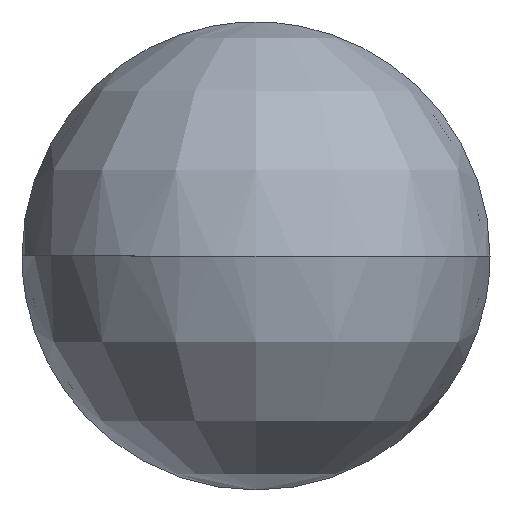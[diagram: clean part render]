
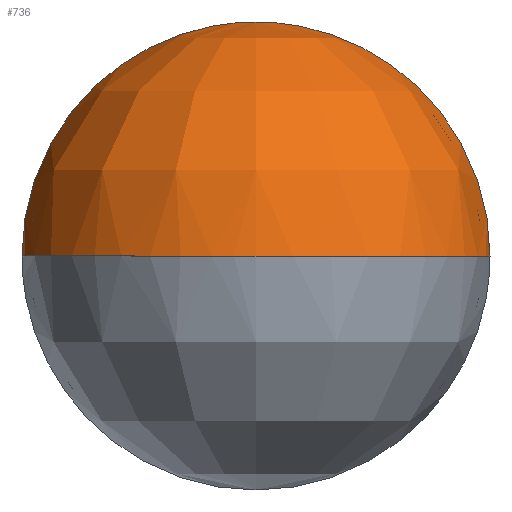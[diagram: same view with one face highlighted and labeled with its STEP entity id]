
A CAD part, front view. The second image highlights one B-rep face of the part: STEP entity #736.
In plain terms, the highlighted free-form (B-spline) face has degree [2, 2] with [5, 5] control points.
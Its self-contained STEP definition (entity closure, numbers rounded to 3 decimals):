
#736=ADVANCED_FACE('',(#2440),#27548,.T.);
#2440=FACE_OUTER_BOUND('',#4172,.T.);
#4172=EDGE_LOOP('',(#6740,#6741,#6742,#6743));
#6740=ORIENTED_EDGE('',*,*,#15159,.T.);
#6741=ORIENTED_EDGE('',*,*,#15139,.T.);
#6742=ORIENTED_EDGE('',*,*,#15141,.T.);
#6743=ORIENTED_EDGE('',*,*,#15158,.F.);
#15139=EDGE_CURVE('',#24006,#24007,#19464,.T.);
#15141=EDGE_CURVE('',#24007,#24003,#19466,.T.);
#15158=EDGE_CURVE('',#24019,#24003,#19481,.T.);
#15159=EDGE_CURVE('',#24019,#24006,#19482,.T.);
#19464=(
BOUNDED_CURVE()
B_SPLINE_CURVE(2,(#37439,#37440,#37441),.UNSPECIFIED.,.F.,.F.)
B_SPLINE_CURVE_WITH_KNOTS((3,3),(0.,141.372),.UNSPECIFIED.)
CURVE()
GEOMETRIC_REPRESENTATION_ITEM()
RATIONAL_B_SPLINE_CURVE((1.,0.707,1.))
REPRESENTATION_ITEM('')
);
#19466=(
BOUNDED_CURVE()
B_SPLINE_CURVE(2,(#37445,#37446,#37447),.UNSPECIFIED.,.F.,.F.)
B_SPLINE_CURVE_WITH_KNOTS((3,3),(141.372,282.743),
 .UNSPECIFIED.)
CURVE()
GEOMETRIC_REPRESENTATION_ITEM()
RATIONAL_B_SPLINE_CURVE((1.,0.707,1.))
REPRESENTATION_ITEM('')
);
#19481=(
BOUNDED_CURVE()
B_SPLINE_CURVE(2,(#37502,#37503,#37504),.UNSPECIFIED.,.F.,.F.)
B_SPLINE_CURVE_WITH_KNOTS((3,3),(141.372,282.743),
 .UNSPECIFIED.)
CURVE()
GEOMETRIC_REPRESENTATION_ITEM()
RATIONAL_B_SPLINE_CURVE((1.,0.707,1.))
REPRESENTATION_ITEM('')
);
#19482=(
BOUNDED_CURVE()
B_SPLINE_CURVE(2,(#37505,#37506,#37507),.UNSPECIFIED.,.F.,.F.)
B_SPLINE_CURVE_WITH_KNOTS((3,3),(119.919,261.291),
 .UNSPECIFIED.)
CURVE()
GEOMETRIC_REPRESENTATION_ITEM()
RATIONAL_B_SPLINE_CURVE((1.,0.707,1.))
REPRESENTATION_ITEM('')
);
#24003=VERTEX_POINT('',#37418);
#24006=VERTEX_POINT('',#37421);
#24007=VERTEX_POINT('',#37422);
#24019=VERTEX_POINT('',#37434);
#27548=(
BOUNDED_SURFACE()
B_SPLINE_SURFACE(2,2,((#37318,#37319,#37320,#37321,#37322),(#37323,#37324,
#37325,#37326,#37327),(#37328,#37329,#37330,#37331,#37332),(#37333,#37334,
#37335,#37336,#37337),(#37338,#37339,#37340,#37341,#37342)),
 .UNSPECIFIED.,.F.,.F.,.F.)
B_SPLINE_SURFACE_WITH_KNOTS((3,2,3),(3,2,3),(282.743,424.115,
565.487),(0.,141.372,282.743),.UNSPECIFIED.)
GEOMETRIC_REPRESENTATION_ITEM()
RATIONAL_B_SPLINE_SURFACE(((1.,0.707,1.,0.707,1.),
(0.707,0.5,0.707,0.5,0.707),(1.,0.707,
1.,0.707,1.),(0.707,0.5,0.707,0.5,0.707),
(1.,0.707,1.,0.707,1.)))
REPRESENTATION_ITEM('')
SURFACE()
);
#37318=CARTESIAN_POINT('',(0.,-3214.355,-90.));
#37319=CARTESIAN_POINT('',(-90.,-3214.355,-90.));
#37320=CARTESIAN_POINT('',(-90.,-3214.355,0.));
#37321=CARTESIAN_POINT('',(-90.,-3214.355,90.));
#37322=CARTESIAN_POINT('',(0.,-3214.355,90.));
#37323=CARTESIAN_POINT('',(0.,-3214.355,-90.));
#37324=CARTESIAN_POINT('',(-90.,-3304.355,-90.));
#37325=CARTESIAN_POINT('',(-90.,-3304.355,0.));
#37326=CARTESIAN_POINT('',(-90.,-3304.355,90.));
#37327=CARTESIAN_POINT('',(0.,-3214.355,90.));
#37328=CARTESIAN_POINT('',(0.,-3214.355,-90.));
#37329=CARTESIAN_POINT('',(0.,-3304.355,-90.));
#37330=CARTESIAN_POINT('',(0.,-3304.355,0.));
#37331=CARTESIAN_POINT('',(0.,-3304.355,90.));
#37332=CARTESIAN_POINT('',(0.,-3214.355,90.));
#37333=CARTESIAN_POINT('',(0.,-3214.355,-90.));
#37334=CARTESIAN_POINT('',(90.,-3304.355,-90.));
#37335=CARTESIAN_POINT('',(90.,-3304.355,0.));
#37336=CARTESIAN_POINT('',(90.,-3304.355,90.));
#37337=CARTESIAN_POINT('',(0.,-3214.355,90.));
#37338=CARTESIAN_POINT('',(0.,-3214.355,-90.));
#37339=CARTESIAN_POINT('',(90.,-3214.355,-90.));
#37340=CARTESIAN_POINT('',(90.,-3214.355,0.));
#37341=CARTESIAN_POINT('',(90.,-3214.355,90.));
#37342=CARTESIAN_POINT('',(0.,-3214.355,90.));
#37418=CARTESIAN_POINT('',(0.,-3214.355,90.));
#37421=CARTESIAN_POINT('',(0.,-3304.355,0.));
#37422=CARTESIAN_POINT('',(90.,-3214.355,0.));
#37434=CARTESIAN_POINT('',(-90.,-3214.355,0.));
#37439=CARTESIAN_POINT('',(0.,-3304.355,0.));
#37440=CARTESIAN_POINT('',(90.,-3304.355,0.));
#37441=CARTESIAN_POINT('',(90.,-3214.355,0.));
#37445=CARTESIAN_POINT('',(90.,-3214.355,0.));
#37446=CARTESIAN_POINT('',(90.,-3214.355,90.));
#37447=CARTESIAN_POINT('',(0.,-3214.355,90.));
#37502=CARTESIAN_POINT('',(-90.,-3214.355,0.));
#37503=CARTESIAN_POINT('',(-90.,-3214.355,90.));
#37504=CARTESIAN_POINT('',(0.,-3214.355,90.));
#37505=CARTESIAN_POINT('',(-90.,-3214.355,0.));
#37506=CARTESIAN_POINT('',(-90.,-3304.355,0.));
#37507=CARTESIAN_POINT('',(0.,-3304.355,0.));
